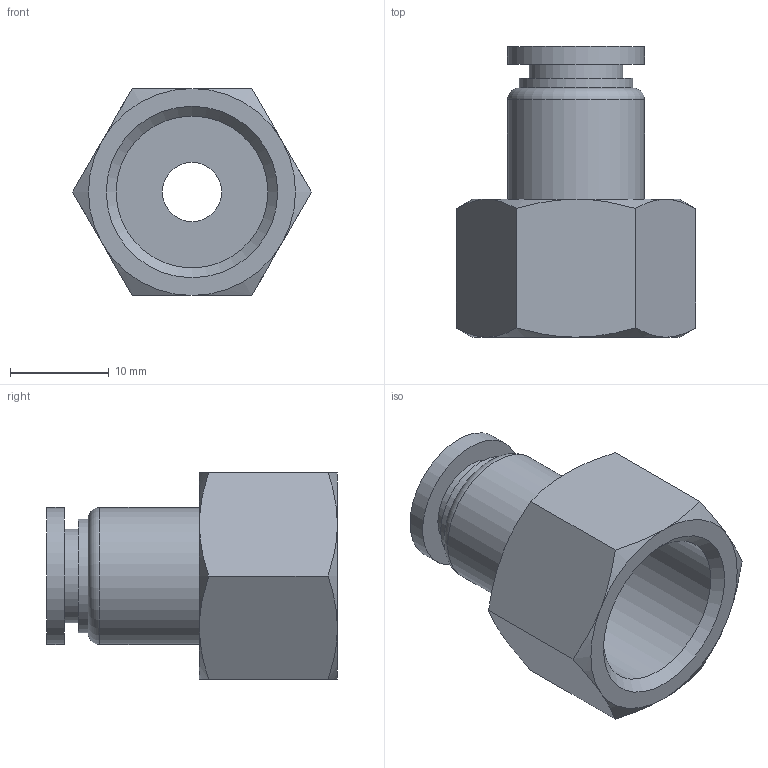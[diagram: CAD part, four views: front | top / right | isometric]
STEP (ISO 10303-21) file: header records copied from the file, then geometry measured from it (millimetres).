
FILE_DESCRIPTION(/* description */ (''),/* implementation_level */ '2;1');
FILE_NAME(/* name */ 'S:\_Tecnico\ArchivioUT\_Disegni3D ingombri\DISEGNI 3D per ingombri\RP\RP 52\RP523808.stp',/* time_stamp */ '2019-07-30T09:13:48+02:00',/* author */ ('ufficiotecnico3'),/* organization */ (''),/* preprocessor_version */ 'ST-DEVELOPER v18',/* originating_system */ 'Autodesk Inventor 2020',/* authorisation */ '');
FILE_SCHEMA (('AUTOMOTIVE_DESIGN { 1 0 10303 214 3 1 1 }'));
Length unit declared in the file: millimetre
Products named in the file (1): RP523808
Bounding box: 24.25 x 29.5 x 21 mm (x, y, z)
Volume: 4377.1 mm3; surface area: 3468.5 mm2
Topology: 1 solids, 1 shells, 34 faces, 82 edges, 55 vertices
Faces by surface type: cone 13, plane 13, cylinder 7, torus 1
Full cylindrical faces by diameter (mm): 6 x1, 8 x1, 9.5 x1, 11.5 x1, 13.9 x2, 15.395 x1
Entity records: 1039 total; most frequent: CARTESIAN_POINT 220, DIRECTION 172, ORIENTED_EDGE 164, EDGE_CURVE 82, AXIS2_PLACEMENT_3D 79, VERTEX_POINT 55, CIRCLE 44, EDGE_LOOP 41
